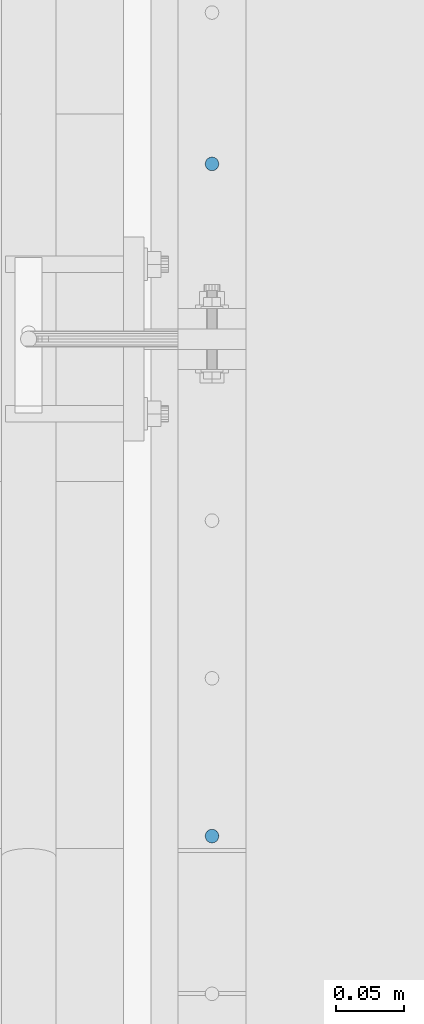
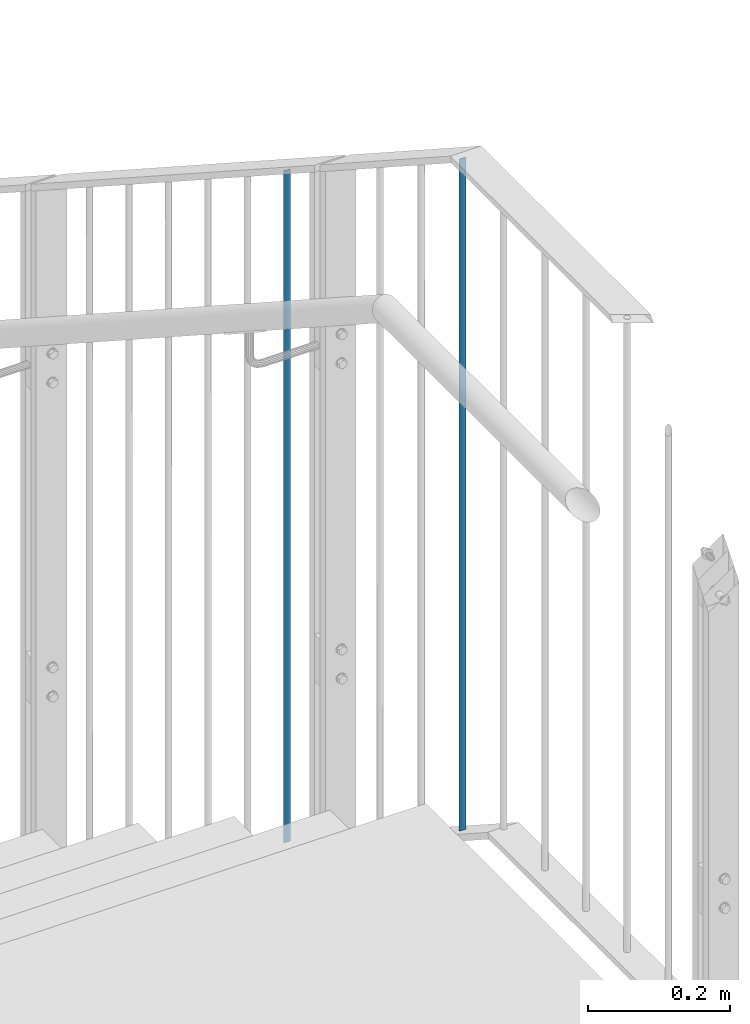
# One storey, part 36 of 296: 2 columns.
"""IFC2X3 building model written with IfcOpenShell, lengths in millimetres."""

from ifc_helpers import new_model, entity, si_unit, converted_unit, frame, origin, origin_with_axes, origin_2d, place, context, project, spatial, circle, extrude, clip, halfspace, material, element, save


model = new_model("IFC2X3")

# Units and contexts
model_context = context("Model", 3, precision=1e-09, world=origin_with_axes())
ifc_project = project(units=[si_unit("LENGTHUNIT", "METRE", prefix="MILLI"), si_unit("AREAUNIT", "SQUARE_METRE"), si_unit("VOLUMEUNIT", "CUBIC_METRE"), converted_unit("PLANEANGLEUNIT", "DEGREE", entity("IfcPlaneAngleMeasure", 0.01745329), si_unit("PLANEANGLEUNIT", "RADIAN"), dimensions=[0, 0, 0, 0, 0, 0, 0])], contexts=[model_context])

# Site, building, storey
site_placement = place(None, origin_with_axes())
site = spatial("IfcSite", under=ifc_project, at=site_placement, Name="TZD-S?d | Treppenhausgel?nder", CompositionType="ELEMENT")
building_placement = place(site_placement, origin_with_axes())
building = spatial("IfcBuilding", under=site, at=building_placement, Name="Struktur 1", CompositionType="ELEMENT")
storey_placement = place(building_placement, origin_with_axes())
storey = spatial("IfcBuildingStorey", under=building, at=storey_placement, Name="Default Storey", CompositionType="ELEMENT", Elevation=0.0)

# Columns
ifc_material = material(Name="S235JR")
column_1_placement = place(None, frame((5894.999, -2700.8333334, 13561.59588856), z_axis=(0.0, 0.0, -1.0), x_axis=(0.0, 1.0, 0.0)))
element("IfcColumn", 1, at=column_1_placement, inside=storey, material=ifc_material, Name="-", ObjectType="-", context=model_context, shape_type="Clipping", body=[
    clip(clip(extrude(circle(Radius=5.0, at=origin_2d()), origin(), (0.0, 0.0, -1.0), 1184.934501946), halfspace(frame((8624.020335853, -5894.999, 4413.003944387), z_axis=(-0.543478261, 0.0, 0.839423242), x_axis=(0.0, 1.0, 0.0)), True)), halfspace(frame((8096.565212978, -5894.999, 5227.678829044), z_axis=(0.543478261, 0.0, -0.839423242), x_axis=(0.0, -1.0, 0.0)), True)),
])
column_2_placement = place(None, frame((5894.999, -2206.0714286, 13241.266016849), z_axis=(0.0, 0.0, -1.0), x_axis=(0.0, 1.0, 0.0)))
element("IfcColumn", 2, at=column_2_placement, inside=storey, material=ifc_material, Name="-", ObjectType="-", context=model_context, shape_type="Clipping", body=[
    clip(clip(extrude(circle(Radius=5.0, at=origin_2d()), origin(), (0.0, 0.0, -1.0), 1184.934501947), halfspace(frame((7601.803308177, -5894.999, 4907.34895733), z_axis=(0.543478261, 0.0, -0.839423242), x_axis=(0.0, -1.0, 0.0)), True)), halfspace(frame((8129.258431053, -5894.999, 4092.674072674), z_axis=(-0.543478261, 0.0, 0.839423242), x_axis=(0.0, 1.0, 0.0)), True)),
])

save(model, "model.ifc")
